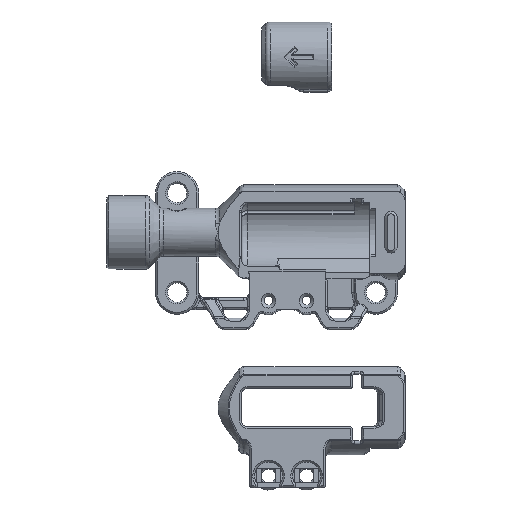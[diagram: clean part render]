
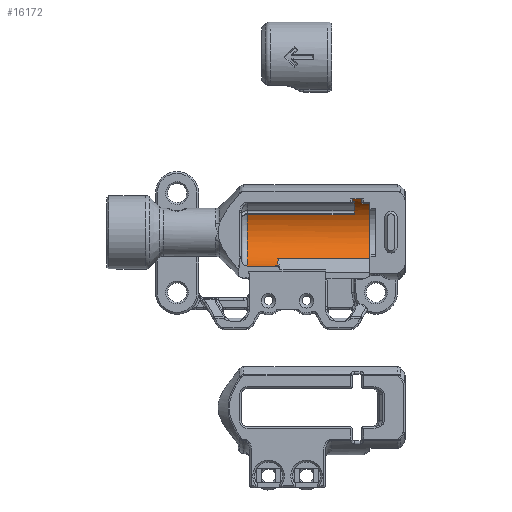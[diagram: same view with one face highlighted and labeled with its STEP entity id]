
A CAD part, top view. The second image highlights one B-rep face of the part: STEP entity #16172.
In plain terms, the highlighted cylindrical face has radius 6.1 mm (diameter 12.2 mm), a partial arc.
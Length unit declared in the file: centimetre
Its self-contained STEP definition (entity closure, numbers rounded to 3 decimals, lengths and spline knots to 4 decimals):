
#399=ELLIPSE($,#17465,0.1595,0.0335);
#1216=FACE_OUTER_BOUND($,#2298,.T.);
#2298=EDGE_LOOP($,(#11655,#11656,#11657,#11658,#11659,#11660,#11661,#11662,
#11663,#11664,#11665,#11666,#11667,#11668,#11669,#11670));
#3367=LINE($,#27426,#4373);
#3368=LINE($,#27430,#4374);
#3369=LINE($,#27434,#4375);
#3370=LINE($,#27438,#4376);
#3371=LINE($,#27442,#4377);
#3372=LINE($,#27446,#4378);
#3373=LINE($,#27449,#4379);
#3374=LINE($,#27451,#4380);
#4373=VECTOR($,#19872,0.0352);
#4374=VECTOR($,#19875,1.58);
#4375=VECTOR($,#19878,0.11);
#4376=VECTOR($,#19881,0.22);
#4377=VECTOR($,#19884,1.77);
#4378=VECTOR($,#19887,1.83);
#4379=VECTOR($,#19890,1.83);
#4380=VECTOR($,#19891,0.4909);
#5922=CIRCLE($,#17420,0.61);
#5942=CIRCLE($,#17459,0.61);
#5943=CIRCLE($,#17460,0.61);
#5944=CIRCLE($,#17461,0.61);
#5945=CIRCLE($,#17462,0.61);
#5946=CIRCLE($,#17463,0.61);
#5947=CIRCLE($,#17464,0.61);
#6987=VERTEX_POINT($,#27004);
#6988=VERTEX_POINT($,#27015);
#7059=VERTEX_POINT($,#27424);
#7060=VERTEX_POINT($,#27425);
#7061=VERTEX_POINT($,#27427);
#7062=VERTEX_POINT($,#27429);
#7063=VERTEX_POINT($,#27431);
#7064=VERTEX_POINT($,#27433);
#7065=VERTEX_POINT($,#27435);
#7066=VERTEX_POINT($,#27437);
#7067=VERTEX_POINT($,#27439);
#7068=VERTEX_POINT($,#27441);
#7069=VERTEX_POINT($,#27443);
#7070=VERTEX_POINT($,#27445);
#7071=VERTEX_POINT($,#27447);
#7072=VERTEX_POINT($,#27450);
#8649=EDGE_CURVE($,#6988,#6987,#5922,.T.);
#8739=EDGE_CURVE($,#7059,#7060,#3367,.T.);
#8740=EDGE_CURVE($,#7059,#7061,#5942,.T.);
#8741=EDGE_CURVE($,#7061,#7062,#3368,.T.);
#8742=EDGE_CURVE($,#7063,#7062,#5943,.T.);
#8743=EDGE_CURVE($,#7063,#7064,#3369,.T.);
#8744=EDGE_CURVE($,#7064,#7065,#5944,.T.);
#8745=EDGE_CURVE($,#7065,#7066,#3370,.T.);
#8746=EDGE_CURVE($,#7066,#7067,#5945,.T.);
#8747=EDGE_CURVE($,#7067,#7068,#3371,.T.);
#8748=EDGE_CURVE($,#7068,#7069,#5946,.T.);
#8749=EDGE_CURVE($,#7070,#7069,#3372,.T.);
#8750=EDGE_CURVE($,#7071,#7070,#5947,.T.);
#8751=EDGE_CURVE($,#6988,#7071,#3373,.T.);
#8752=EDGE_CURVE($,#7072,#6987,#3374,.T.);
#8753=EDGE_CURVE($,#7072,#7060,#399,.T.);
#11655=ORIENTED_EDGE($,*,*,#8739,.F.);
#11656=ORIENTED_EDGE($,*,*,#8740,.T.);
#11657=ORIENTED_EDGE($,*,*,#8741,.T.);
#11658=ORIENTED_EDGE($,*,*,#8742,.F.);
#11659=ORIENTED_EDGE($,*,*,#8743,.T.);
#11660=ORIENTED_EDGE($,*,*,#8744,.T.);
#11661=ORIENTED_EDGE($,*,*,#8745,.T.);
#11662=ORIENTED_EDGE($,*,*,#8746,.T.);
#11663=ORIENTED_EDGE($,*,*,#8747,.T.);
#11664=ORIENTED_EDGE($,*,*,#8748,.T.);
#11665=ORIENTED_EDGE($,*,*,#8749,.F.);
#11666=ORIENTED_EDGE($,*,*,#8750,.F.);
#11667=ORIENTED_EDGE($,*,*,#8751,.F.);
#11668=ORIENTED_EDGE($,*,*,#8649,.T.);
#11669=ORIENTED_EDGE($,*,*,#8752,.F.);
#11670=ORIENTED_EDGE($,*,*,#8753,.T.);
#15750=CYLINDRICAL_SURFACE($,#17458,0.61);
#16172=ADVANCED_FACE($,(#1216),#15750,.F.);
#17420=AXIS2_PLACEMENT_3D($,#27016,#19743,#19744);
#17458=AXIS2_PLACEMENT_3D($,#27423,#19870,#19871);
#17459=AXIS2_PLACEMENT_3D($,#27428,#19873,#19874);
#17460=AXIS2_PLACEMENT_3D($,#27432,#19876,#19877);
#17461=AXIS2_PLACEMENT_3D($,#27436,#19879,#19880);
#17462=AXIS2_PLACEMENT_3D($,#27440,#19882,#19883);
#17463=AXIS2_PLACEMENT_3D($,#27444,#19885,#19886);
#17464=AXIS2_PLACEMENT_3D($,#27448,#19888,#19889);
#17465=AXIS2_PLACEMENT_3D($,#27452,#19892,#19893);
#19743=DIRECTION('center_axis',(-1.,0.,0.));
#19744=DIRECTION('ref_axis',(0.,0.,-1.));
#19870=DIRECTION('center_axis',(-1.,0.,0.));
#19871=DIRECTION('ref_axis',(0.,0.,1.));
#19872=DIRECTION($,(-1.,0.,0.));
#19873=DIRECTION('center_axis',(1.,0.,0.));
#19874=DIRECTION('ref_axis',(0.,0.,1.));
#19875=DIRECTION($,(1.,0.,0.));
#19876=DIRECTION('center_axis',(-1.,0.,0.));
#19877=DIRECTION('ref_axis',(0.,0.,1.));
#19878=DIRECTION($,(-1.,0.,0.));
#19879=DIRECTION('center_axis',(-1.,0.,0.));
#19880=DIRECTION('ref_axis',(0.,0.,1.));
#19881=DIRECTION($,(-1.,0.,0.));
#19882=DIRECTION('center_axis',(1.,0.,0.));
#19883=DIRECTION('ref_axis',(0.,0.,1.));
#19884=DIRECTION($,(-1.,0.,0.));
#19885=DIRECTION('center_axis',(-1.,0.,0.));
#19886=DIRECTION('ref_axis',(0.,0.,-1.));
#19887=DIRECTION($,(-1.,0.,0.));
#19888=DIRECTION('center_axis',(1.,0.,0.));
#19889=DIRECTION('ref_axis',(0.,0.,-1.));
#19890=DIRECTION($,(1.,0.,0.));
#19891=DIRECTION($,(-1.,0.,0.));
#19892=DIRECTION('center_axis',(0.794,-0.225,-0.565));
#19893=DIRECTION('ref_axis',(0.507,-0.267,0.819));
#27004=CARTESIAN_POINT('',(2.4,-0.5763,-0.2));
#27015=CARTESIAN_POINT('',(2.4,0.3031,-0.5294));
#27016=CARTESIAN_POINT('Origin',(2.4,0.,0.));
#27423=CARTESIAN_POINT('Origin',(-0.4314,0.,0.));
#27424=CARTESIAN_POINT('',(2.92,-0.5727,-0.21));
#27425=CARTESIAN_POINT('',(2.8848,-0.5727,-0.21));
#27426=CARTESIAN_POINT($,(-0.4314,-0.5727,-0.21));
#27427=CARTESIAN_POINT('',(2.92,-0.4517,-0.41));
#27428=CARTESIAN_POINT('Origin',(2.92,0.,0.));
#27429=CARTESIAN_POINT('',(4.5,-0.4517,-0.41));
#27430=CARTESIAN_POINT($,(2.96,-0.4517,-0.41));
#27431=CARTESIAN_POINT('',(4.5,0.4908,0.3622));
#27432=CARTESIAN_POINT('Origin',(4.5,0.,0.));
#27433=CARTESIAN_POINT('',(4.39,0.4908,0.3622));
#27434=CARTESIAN_POINT($,(-0.4314,0.4908,0.3622));
#27435=CARTESIAN_POINT('',(4.39,0.5756,0.2019));
#27436=CARTESIAN_POINT('Origin',(4.39,0.,0.));
#27437=CARTESIAN_POINT('',(4.17,0.5756,0.2019));
#27438=CARTESIAN_POINT($,(-0.4314,0.5756,0.2019));
#27439=CARTESIAN_POINT('',(4.17,0.4908,0.3622));
#27440=CARTESIAN_POINT('Origin',(4.17,0.,0.));
#27441=CARTESIAN_POINT('',(2.4,0.4908,0.3622));
#27442=CARTESIAN_POINT($,(-0.4314,0.4908,0.3622));
#27443=CARTESIAN_POINT('',(2.4,0.5294,-0.3031));
#27444=CARTESIAN_POINT('Origin',(2.4,0.,0.));
#27445=CARTESIAN_POINT('',(4.23,0.5294,-0.3031));
#27446=CARTESIAN_POINT($,(-0.4314,0.5294,-0.3031));
#27447=CARTESIAN_POINT('',(4.23,0.3031,-0.5294));
#27448=CARTESIAN_POINT('Origin',(4.23,0.,0.));
#27449=CARTESIAN_POINT($,(-0.4314,0.3031,-0.5294));
#27450=CARTESIAN_POINT('',(2.8909,-0.5763,-0.2));
#27451=CARTESIAN_POINT($,(-0.4314,-0.5763,-0.2));
#27452=CARTESIAN_POINT('Origin',(2.9087,-0.5485,-0.1859));
